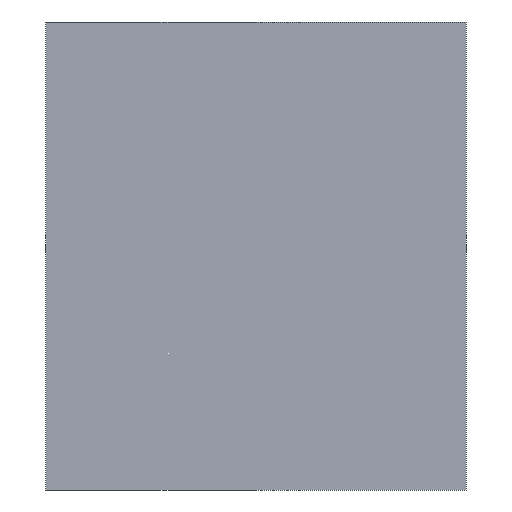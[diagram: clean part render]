
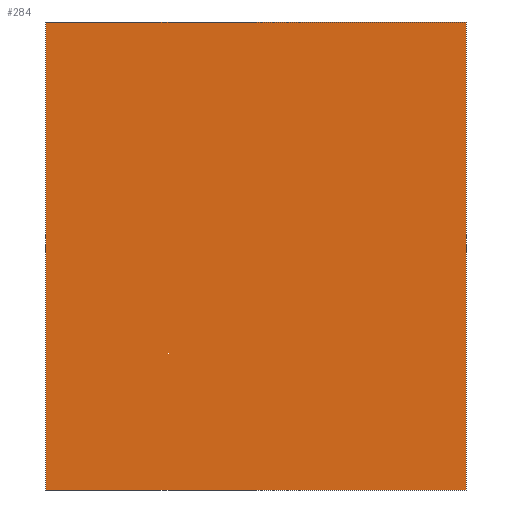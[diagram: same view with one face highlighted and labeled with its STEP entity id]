
A CAD part, left-side view. The second image highlights one B-rep face of the part: STEP entity #284.
In plain terms, the highlighted planar face has unit normal (-1, 0, 0).
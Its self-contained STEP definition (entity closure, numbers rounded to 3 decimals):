
#32 = PLANE('',#33);
#33 = AXIS2_PLACEMENT_3D('',#34,#35,#36);
#34 = CARTESIAN_POINT('',(30.5,-8.975,5.9));
#35 = DIRECTION('',(0.,1.,0.));
#36 = DIRECTION('',(0.,0.,1.));
#57 = VERTEX_POINT('',#58);
#58 = CARTESIAN_POINT('',(25.7,-8.975,5.9));
#72 = PLANE('',#73);
#73 = AXIS2_PLACEMENT_3D('',#74,#75,#76);
#74 = CARTESIAN_POINT('',(30.5,-8.975,5.9));
#75 = DIRECTION('',(0.,0.,1.));
#76 = DIRECTION('',(0.,1.,0.));
#84 = EDGE_CURVE('',#57,#85,#87,.T.);
#85 = VERTEX_POINT('',#86);
#86 = CARTESIAN_POINT('',(25.7,-8.975,13.7));
#87 = SURFACE_CURVE('',#88,(#92,#99),.PCURVE_S1.);
#88 = LINE('',#89,#90);
#89 = CARTESIAN_POINT('',(25.7,-8.975,5.9));
#90 = VECTOR('',#91,1.);
#91 = DIRECTION('',(0.,0.,1.));
#92 = PCURVE('',#32,#93);
#93 = DEFINITIONAL_REPRESENTATION('',(#94),#98);
#94 = LINE('',#95,#96);
#95 = CARTESIAN_POINT('',(0.,-4.8));
#96 = VECTOR('',#97,1.);
#97 = DIRECTION('',(1.,0.));
#98 = ( GEOMETRIC_REPRESENTATION_CONTEXT(2) 
PARAMETRIC_REPRESENTATION_CONTEXT() REPRESENTATION_CONTEXT('2D SPACE',''
  ) );
#99 = PCURVE('',#100,#105);
#100 = PLANE('',#101);
#101 = AXIS2_PLACEMENT_3D('',#102,#103,#104);
#102 = CARTESIAN_POINT('',(25.7,-8.975,5.9));
#103 = DIRECTION('',(-1.,0.,0.));
#104 = DIRECTION('',(0.,0.,1.));
#105 = DEFINITIONAL_REPRESENTATION('',(#106),#110);
#106 = LINE('',#107,#108);
#107 = CARTESIAN_POINT('',(0.,0.));
#108 = VECTOR('',#109,1.);
#109 = DIRECTION('',(1.,0.));
#110 = ( GEOMETRIC_REPRESENTATION_CONTEXT(2) 
PARAMETRIC_REPRESENTATION_CONTEXT() REPRESENTATION_CONTEXT('2D SPACE',''
  ) );
#126 = PLANE('',#127);
#127 = AXIS2_PLACEMENT_3D('',#128,#129,#130);
#128 = CARTESIAN_POINT('',(30.5,-8.975,13.7));
#129 = DIRECTION('',(0.,0.,1.));
#130 = DIRECTION('',(0.,1.,0.));
#152 = PLANE('',#153);
#153 = AXIS2_PLACEMENT_3D('',#154,#155,#156);
#154 = CARTESIAN_POINT('',(30.5,-1.975,5.9));
#155 = DIRECTION('',(0.,1.,0.));
#156 = DIRECTION('',(0.,0.,1.));
#172 = VERTEX_POINT('',#173);
#173 = CARTESIAN_POINT('',(25.7,-1.975,5.9));
#194 = EDGE_CURVE('',#172,#195,#197,.T.);
#195 = VERTEX_POINT('',#196);
#196 = CARTESIAN_POINT('',(25.7,-1.975,13.7));
#197 = SURFACE_CURVE('',#198,(#202,#209),.PCURVE_S1.);
#198 = LINE('',#199,#200);
#199 = CARTESIAN_POINT('',(25.7,-1.975,5.9));
#200 = VECTOR('',#201,1.);
#201 = DIRECTION('',(0.,0.,1.));
#202 = PCURVE('',#152,#203);
#203 = DEFINITIONAL_REPRESENTATION('',(#204),#208);
#204 = LINE('',#205,#206);
#205 = CARTESIAN_POINT('',(0.,-4.8));
#206 = VECTOR('',#207,1.);
#207 = DIRECTION('',(1.,0.));
#208 = ( GEOMETRIC_REPRESENTATION_CONTEXT(2) 
PARAMETRIC_REPRESENTATION_CONTEXT() REPRESENTATION_CONTEXT('2D SPACE',''
  ) );
#209 = PCURVE('',#100,#210);
#210 = DEFINITIONAL_REPRESENTATION('',(#211),#215);
#211 = LINE('',#212,#213);
#212 = CARTESIAN_POINT('',(0.,7.));
#213 = VECTOR('',#214,1.);
#214 = DIRECTION('',(1.,0.));
#215 = ( GEOMETRIC_REPRESENTATION_CONTEXT(2) 
PARAMETRIC_REPRESENTATION_CONTEXT() REPRESENTATION_CONTEXT('2D SPACE',''
  ) );
#284 = ADVANCED_FACE('',(#285),#100,.T.);
#285 = FACE_BOUND('',#286,.T.);
#286 = EDGE_LOOP('',(#287,#308,#309,#330));
#287 = ORIENTED_EDGE('',*,*,#288,.F.);
#288 = EDGE_CURVE('',#57,#172,#289,.T.);
#289 = SURFACE_CURVE('',#290,(#294,#301),.PCURVE_S1.);
#290 = LINE('',#291,#292);
#291 = CARTESIAN_POINT('',(25.7,-8.975,5.9));
#292 = VECTOR('',#293,1.);
#293 = DIRECTION('',(0.,1.,0.));
#294 = PCURVE('',#100,#295);
#295 = DEFINITIONAL_REPRESENTATION('',(#296),#300);
#296 = LINE('',#297,#298);
#297 = CARTESIAN_POINT('',(0.,0.));
#298 = VECTOR('',#299,1.);
#299 = DIRECTION('',(0.,1.));
#300 = ( GEOMETRIC_REPRESENTATION_CONTEXT(2) 
PARAMETRIC_REPRESENTATION_CONTEXT() REPRESENTATION_CONTEXT('2D SPACE',''
  ) );
#301 = PCURVE('',#72,#302);
#302 = DEFINITIONAL_REPRESENTATION('',(#303),#307);
#303 = LINE('',#304,#305);
#304 = CARTESIAN_POINT('',(0.,4.8));
#305 = VECTOR('',#306,1.);
#306 = DIRECTION('',(1.,0.));
#307 = ( GEOMETRIC_REPRESENTATION_CONTEXT(2) 
PARAMETRIC_REPRESENTATION_CONTEXT() REPRESENTATION_CONTEXT('2D SPACE',''
  ) );
#308 = ORIENTED_EDGE('',*,*,#84,.T.);
#309 = ORIENTED_EDGE('',*,*,#310,.T.);
#310 = EDGE_CURVE('',#85,#195,#311,.T.);
#311 = SURFACE_CURVE('',#312,(#316,#323),.PCURVE_S1.);
#312 = LINE('',#313,#314);
#313 = CARTESIAN_POINT('',(25.7,-8.975,13.7));
#314 = VECTOR('',#315,1.);
#315 = DIRECTION('',(0.,1.,0.));
#316 = PCURVE('',#100,#317);
#317 = DEFINITIONAL_REPRESENTATION('',(#318),#322);
#318 = LINE('',#319,#320);
#319 = CARTESIAN_POINT('',(7.8,0.));
#320 = VECTOR('',#321,1.);
#321 = DIRECTION('',(0.,1.));
#322 = ( GEOMETRIC_REPRESENTATION_CONTEXT(2) 
PARAMETRIC_REPRESENTATION_CONTEXT() REPRESENTATION_CONTEXT('2D SPACE',''
  ) );
#323 = PCURVE('',#126,#324);
#324 = DEFINITIONAL_REPRESENTATION('',(#325),#329);
#325 = LINE('',#326,#327);
#326 = CARTESIAN_POINT('',(0.,4.8));
#327 = VECTOR('',#328,1.);
#328 = DIRECTION('',(1.,0.));
#329 = ( GEOMETRIC_REPRESENTATION_CONTEXT(2) 
PARAMETRIC_REPRESENTATION_CONTEXT() REPRESENTATION_CONTEXT('2D SPACE',''
  ) );
#330 = ORIENTED_EDGE('',*,*,#194,.F.);
